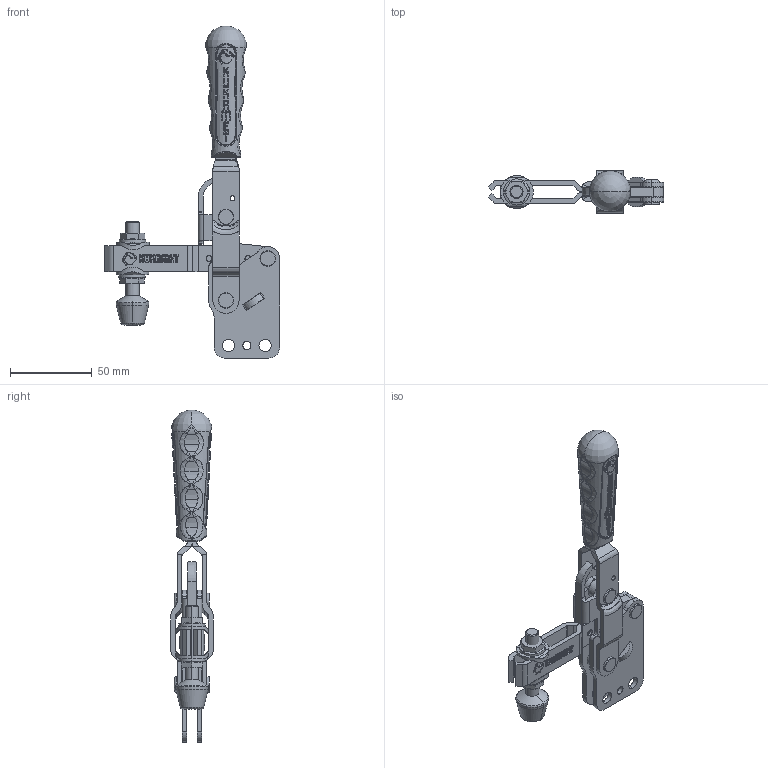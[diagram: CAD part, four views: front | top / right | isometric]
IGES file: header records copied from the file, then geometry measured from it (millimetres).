
Start section: 3D InterOp IGES (v. 2020 1.0.1), Spatial Corp. Copyright (c) 1999-2017.
Global section: file name: 212-3.igs; native system: Spatial Corp.; preprocessor: 3D InterOp ACIS/IGES; author: TraceParts; organization: TraceParts S.A.; date: 20230912.104144; units: millimetre
Bounding box: 107 x 25.7 x 202.68 mm (x, y, z)
Surface area: 45548 mm2 (no closed solid volume)
Topology: 0 solids, 0 shells, 2350 faces, 18550 edges, 18426 vertices
Faces by surface type: revolution 1121, extrusion 699, bspline 530
